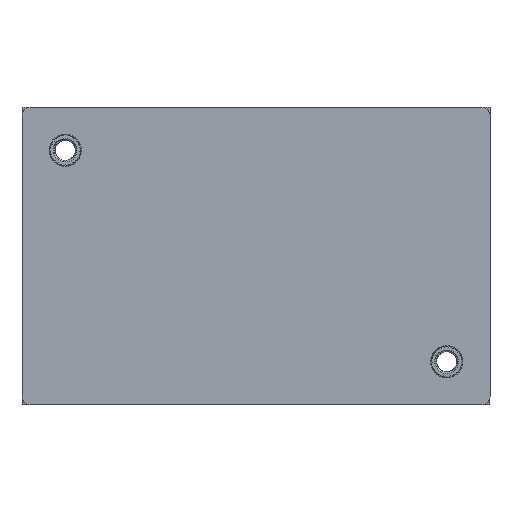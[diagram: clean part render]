
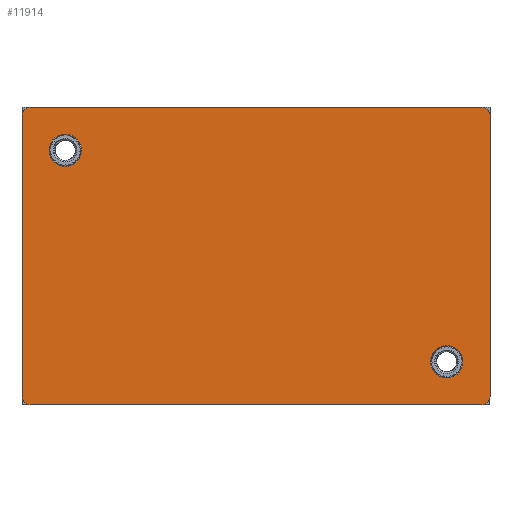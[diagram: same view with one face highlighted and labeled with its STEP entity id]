
A CAD part, front view. The second image highlights one B-rep face of the part: STEP entity #11914.
In plain terms, the highlighted planar face has unit normal (0, -1, 0).
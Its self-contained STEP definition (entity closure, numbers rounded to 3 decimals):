
#234 = VERTEX_POINT ( 'NONE', #11335 ) ;
#328 = CARTESIAN_POINT ( 'NONE',  ( -5.35, -0.2, -31.48 ) ) ;
#495 = VECTOR ( 'NONE', #12243, 1000. ) ;
#680 = DIRECTION ( 'NONE',  ( 0., 0., 1. ) ) ;
#810 = AXIS2_PLACEMENT_3D ( 'NONE', #13782, #30300, #30125 ) ;
#850 = CIRCLE ( 'NONE', #21142, 2. ) ;
#924 = FACE_BOUND ( 'NONE', #2628, .T. ) ;
#1041 = EDGE_CURVE ( 'NONE', #234, #25974, #28801, .T. ) ;
#1305 = ORIENTED_EDGE ( 'NONE', *, *, #10825, .T. ) ;
#1318 = AXIS2_PLACEMENT_3D ( 'NONE', #8740, #17407, #28126 ) ;
#2219 = VERTEX_POINT ( 'NONE', #19345 ) ;
#2628 = EDGE_LOOP ( 'NONE', ( #14853, #29995 ) ) ;
#3178 = LINE ( 'NONE', #6092, #495 ) ;
#3341 = EDGE_CURVE ( 'NONE', #10826, #11485, #22257, .T. ) ;
#3711 = EDGE_CURVE ( 'NONE', #16779, #24274, #25162, .T. ) ;
#5228 = VERTEX_POINT ( 'NONE', #6176 ) ;
#5520 = EDGE_CURVE ( 'NONE', #5228, #2219, #29204, .T. ) ;
#6092 = CARTESIAN_POINT ( 'NONE',  ( -5.35, -0.2, 5.32 ) ) ;
#6176 = CARTESIAN_POINT ( 'NONE',  ( 52.55, -0.2, 4.32 ) ) ;
#6382 = DIRECTION ( 'NONE',  ( -1., 0., 0. ) ) ;
#6696 = DIRECTION ( 'NONE',  ( 0., 0., 1. ) ) ;
#6943 = DIRECTION ( 'NONE',  ( 0., 0., 1. ) ) ;
#7016 = CIRCLE ( 'NONE', #26704, 2. ) ;
#7399 = AXIS2_PLACEMENT_3D ( 'NONE', #32255, #26444, #9944 ) ;
#7769 = AXIS2_PLACEMENT_3D ( 'NONE', #11990, #23059, #28133 ) ;
#7804 = ORIENTED_EDGE ( 'NONE', *, *, #1041, .T. ) ;
#7964 = ORIENTED_EDGE ( 'NONE', *, *, #3711, .T. ) ;
#8582 = CARTESIAN_POINT ( 'NONE',  ( 52.55, -0.2, -31.48 ) ) ;
#8678 = ORIENTED_EDGE ( 'NONE', *, *, #11301, .F. ) ;
#8740 = CARTESIAN_POINT ( 'NONE',  ( 51.55, -0.2, -30.48 ) ) ;
#9084 = DIRECTION ( 'NONE',  ( 0., 1., 0. ) ) ;
#9115 = FACE_OUTER_BOUND ( 'NONE', #31593, .T. ) ;
#9944 = DIRECTION ( 'NONE',  ( 0., 0., 1. ) ) ;
#10127 = CARTESIAN_POINT ( 'NONE',  ( 47.2, -0.2, -28.16 ) ) ;
#10346 = ORIENTED_EDGE ( 'NONE', *, *, #27676, .F. ) ;
#10825 = EDGE_CURVE ( 'NONE', #27872, #30516, #34343, .T. ) ;
#10826 = VERTEX_POINT ( 'NONE', #22326 ) ;
#11301 = EDGE_CURVE ( 'NONE', #16779, #25974, #17187, .T. ) ;
#11335 = CARTESIAN_POINT ( 'NONE',  ( -4.35, -0.2, 5.32 ) ) ;
#11462 = DIRECTION ( 'NONE',  ( 0., 0., -1. ) ) ;
#11485 = VERTEX_POINT ( 'NONE', #10127 ) ;
#11914 = ADVANCED_FACE ( 'NONE', ( #9115, #30855, #924 ), #17602, .F. ) ;
#11990 = CARTESIAN_POINT ( 'NONE',  ( 0., -0.2, 0. ) ) ;
#12243 = DIRECTION ( 'NONE',  ( 1., 0., 0. ) ) ;
#12384 = DIRECTION ( 'NONE',  ( 0., 0., 1. ) ) ;
#13782 = CARTESIAN_POINT ( 'NONE',  ( 51.55, -0.2, 4.32 ) ) ;
#14068 = EDGE_LOOP ( 'NONE', ( #18569, #19540 ) ) ;
#14527 = EDGE_CURVE ( 'NONE', #27872, #24274, #20156, .T. ) ;
#14853 = ORIENTED_EDGE ( 'NONE', *, *, #14965, .T. ) ;
#14965 = EDGE_CURVE ( 'NONE', #11485, #10826, #850, .T. ) ;
#15164 = CARTESIAN_POINT ( 'NONE',  ( -4.35, -0.2, -31.48 ) ) ;
#15256 = DIRECTION ( 'NONE',  ( 0., -1., 0. ) ) ;
#16779 = VERTEX_POINT ( 'NONE', #17741 ) ;
#17187 = LINE ( 'NONE', #328, #26828 ) ;
#17407 = DIRECTION ( 'NONE',  ( 0., -1., 0. ) ) ;
#17602 = PLANE ( 'NONE',  #7769 ) ;
#17741 = CARTESIAN_POINT ( 'NONE',  ( -5.35, -0.2, -30.48 ) ) ;
#17827 = EDGE_CURVE ( 'NONE', #18560, #28096, #35647, .T. ) ;
#18137 = CARTESIAN_POINT ( 'NONE',  ( 0., -0.2, -2. ) ) ;
#18287 = DIRECTION ( 'NONE',  ( 0., 1., 0. ) ) ;
#18560 = VERTEX_POINT ( 'NONE', #21744 ) ;
#18569 = ORIENTED_EDGE ( 'NONE', *, *, #20847, .T. ) ;
#18613 = DIRECTION ( 'NONE',  ( 0., 1., 0. ) ) ;
#19345 = CARTESIAN_POINT ( 'NONE',  ( 51.55, -0.2, 5.32 ) ) ;
#19540 = ORIENTED_EDGE ( 'NONE', *, *, #17827, .T. ) ;
#19791 = LINE ( 'NONE', #8582, #28169 ) ;
#20156 = LINE ( 'NONE', #31227, #22209 ) ;
#20793 = CARTESIAN_POINT ( 'NONE',  ( 0., -0.2, 0. ) ) ;
#20847 = EDGE_CURVE ( 'NONE', #28096, #18560, #7016, .T. ) ;
#20910 = CARTESIAN_POINT ( 'NONE',  ( 47.2, -0.2, -26.16 ) ) ;
#21142 = AXIS2_PLACEMENT_3D ( 'NONE', #28999, #9084, #23026 ) ;
#21505 = ORIENTED_EDGE ( 'NONE', *, *, #5520, .T. ) ;
#21744 = CARTESIAN_POINT ( 'NONE',  ( 0., -0.2, 2. ) ) ;
#22209 = VECTOR ( 'NONE', #6382, 1000. ) ;
#22257 = CIRCLE ( 'NONE', #29780, 2. ) ;
#22310 = AXIS2_PLACEMENT_3D ( 'NONE', #20793, #18613, #32765 ) ;
#22326 = CARTESIAN_POINT ( 'NONE',  ( 47.2, -0.2, -24.16 ) ) ;
#23026 = DIRECTION ( 'NONE',  ( 0., 0., 1. ) ) ;
#23059 = DIRECTION ( 'NONE',  ( 0., 1., 0. ) ) ;
#24178 = DIRECTION ( 'NONE',  ( 0., 1., 0. ) ) ;
#24262 = CARTESIAN_POINT ( 'NONE',  ( 52.55, -0.2, -30.48 ) ) ;
#24274 = VERTEX_POINT ( 'NONE', #15164 ) ;
#25162 = CIRCLE ( 'NONE', #29206, 1. ) ;
#25456 = ORIENTED_EDGE ( 'NONE', *, *, #34619, .F. ) ;
#25974 = VERTEX_POINT ( 'NONE', #33240 ) ;
#26400 = CARTESIAN_POINT ( 'NONE',  ( 51.55, -0.2, -31.48 ) ) ;
#26444 = DIRECTION ( 'NONE',  ( 0., -1., 0. ) ) ;
#26704 = AXIS2_PLACEMENT_3D ( 'NONE', #34259, #18287, #6696 ) ;
#26828 = VECTOR ( 'NONE', #680, 1000. ) ;
#27676 = EDGE_CURVE ( 'NONE', #234, #2219, #3178, .T. ) ;
#27872 = VERTEX_POINT ( 'NONE', #26400 ) ;
#28096 = VERTEX_POINT ( 'NONE', #18137 ) ;
#28126 = DIRECTION ( 'NONE',  ( 0., 0., 1. ) ) ;
#28133 = DIRECTION ( 'NONE',  ( 0., 0., 1. ) ) ;
#28169 = VECTOR ( 'NONE', #11462, 1000. ) ;
#28801 = CIRCLE ( 'NONE', #7399, 1. ) ;
#28999 = CARTESIAN_POINT ( 'NONE',  ( 47.2, -0.2, -26.16 ) ) ;
#29204 = CIRCLE ( 'NONE', #810, 1. ) ;
#29206 = AXIS2_PLACEMENT_3D ( 'NONE', #31601, #15256, #6943 ) ;
#29780 = AXIS2_PLACEMENT_3D ( 'NONE', #20910, #24178, #12384 ) ;
#29995 = ORIENTED_EDGE ( 'NONE', *, *, #3341, .T. ) ;
#30125 = DIRECTION ( 'NONE',  ( 0., 0., 1. ) ) ;
#30300 = DIRECTION ( 'NONE',  ( 0., -1., 0. ) ) ;
#30516 = VERTEX_POINT ( 'NONE', #24262 ) ;
#30855 = FACE_BOUND ( 'NONE', #14068, .T. ) ;
#31227 = CARTESIAN_POINT ( 'NONE',  ( -5.35, -0.2, -31.48 ) ) ;
#31593 = EDGE_LOOP ( 'NONE', ( #8678, #7964, #34029, #1305, #25456, #21505, #10346, #7804 ) ) ;
#31601 = CARTESIAN_POINT ( 'NONE',  ( -4.35, -0.2, -30.48 ) ) ;
#32255 = CARTESIAN_POINT ( 'NONE',  ( -4.35, -0.2, 4.32 ) ) ;
#32765 = DIRECTION ( 'NONE',  ( 0., 0., 1. ) ) ;
#33240 = CARTESIAN_POINT ( 'NONE',  ( -5.35, -0.2, 4.32 ) ) ;
#34029 = ORIENTED_EDGE ( 'NONE', *, *, #14527, .F. ) ;
#34259 = CARTESIAN_POINT ( 'NONE',  ( 0., -0.2, 0. ) ) ;
#34343 = CIRCLE ( 'NONE', #1318, 1. ) ;
#34619 = EDGE_CURVE ( 'NONE', #5228, #30516, #19791, .T. ) ;
#35647 = CIRCLE ( 'NONE', #22310, 2. ) ;
